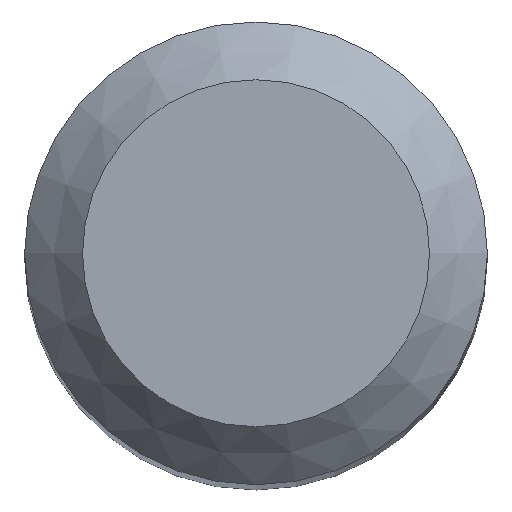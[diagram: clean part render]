
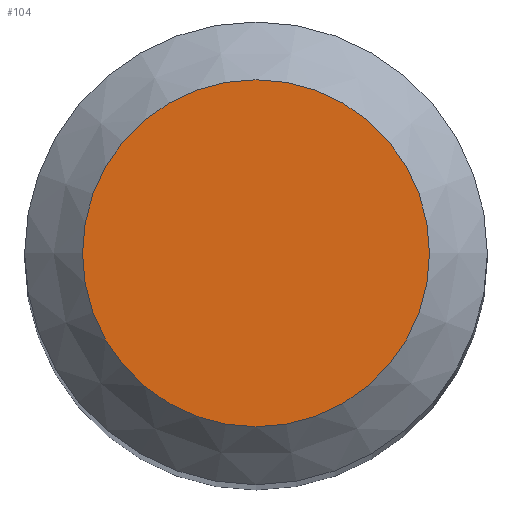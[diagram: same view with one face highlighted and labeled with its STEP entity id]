
A CAD part, top view. The second image highlights one B-rep face of the part: STEP entity #104.
In plain terms, the highlighted planar face has unit normal (0, 0, 1).
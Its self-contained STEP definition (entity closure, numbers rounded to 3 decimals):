
#88=CARTESIAN_POINT('',(1.5,0.0,40.0));
#89=DIRECTION('',(0.0,0.0,1.0));
#90=DIRECTION('',(1.0,0.0,0.0));
#91=AXIS2_PLACEMENT_3D('',#88,#89,#90);
#92=PLANE('',#91);
#93=CARTESIAN_POINT('',(-1.5,0.0,40.0));
#94=VERTEX_POINT('',#93);
#95=CARTESIAN_POINT('',(0.0,0.0,40.0));
#96=DIRECTION('',(0.0,0.0,-1.0));
#97=DIRECTION('',(-1.0,0.0,0.0));
#98=AXIS2_PLACEMENT_3D('',#95,#96,#97);
#99=CIRCLE('',#98,1.5);
#100=EDGE_CURVE('',#94,#94,#99,.T.);
#101=ORIENTED_EDGE('',*,*,#100,.F.);
#102=EDGE_LOOP('',(#101));
#103=FACE_OUTER_BOUND('',#102,.T.);
#104=ADVANCED_FACE('',(#103),#92,.T.);
